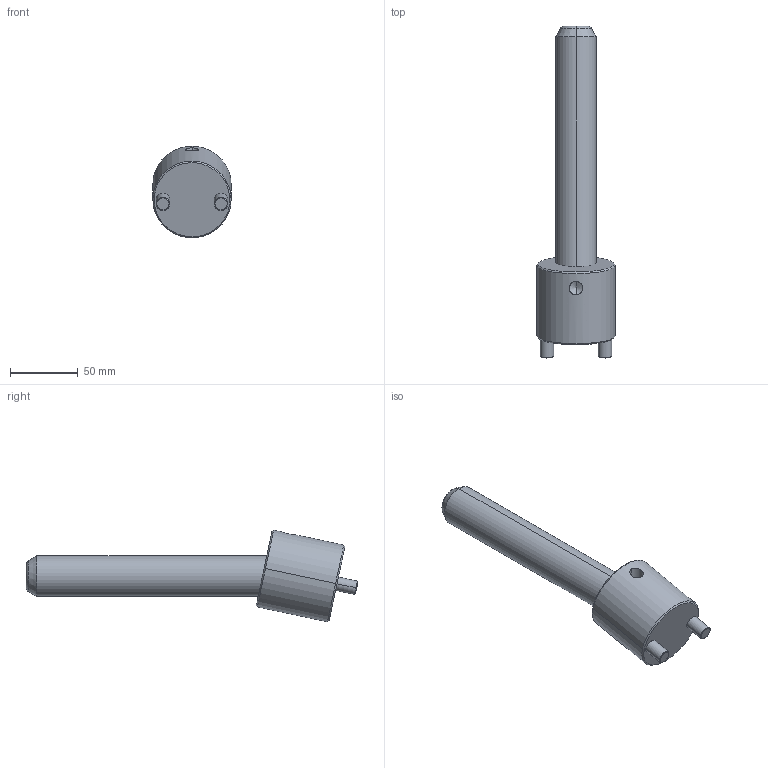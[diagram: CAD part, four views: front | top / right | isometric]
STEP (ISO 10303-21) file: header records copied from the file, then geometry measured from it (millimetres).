
FILE_DESCRIPTION(('CATIA V5 STEP Exchange'),'2;1');
FILE_NAME('C:\Users\Raffaele\Desktop\3D BOLEX\3D FILES CF BOLEX\19-INCLINED ASSEMBLY REF_CI\CI1230175.stp','2019-06-21T14:10:07+00:00',('none'),('none'),'CATIA Version 5 Release 20 GA (IN-10)','CATIA V5 STEP AP203','none');
FILE_SCHEMA(('CONFIG_CONTROL_DESIGN'));
Length unit declared in the file: millimetre
Products named in the file (1): CI1230175
Assembly tree (2 placements, depth 2):
  CI1230175
    #58
    #590
Bounding box: 58 x 245.65 x 67.75 mm (x, y, z)
Volume: 267343.3 mm3; surface area: 42601.9 mm2
Topology: 2 solids, 2 shells, 39 faces, 82 edges, 47 vertices
Faces by surface type: cone 14, cylinder 14, plane 7, torus 4
Entity records: 1539 total; most frequent: CARTESIAN_POINT 676, ORIENTED_EDGE 160, DIRECTION 147, EDGE_CURVE 80, AXIS2_PLACEMENT_3D 74, VERTEX_POINT 47, EDGE_LOOP 43, ADVANCED_FACE 39
